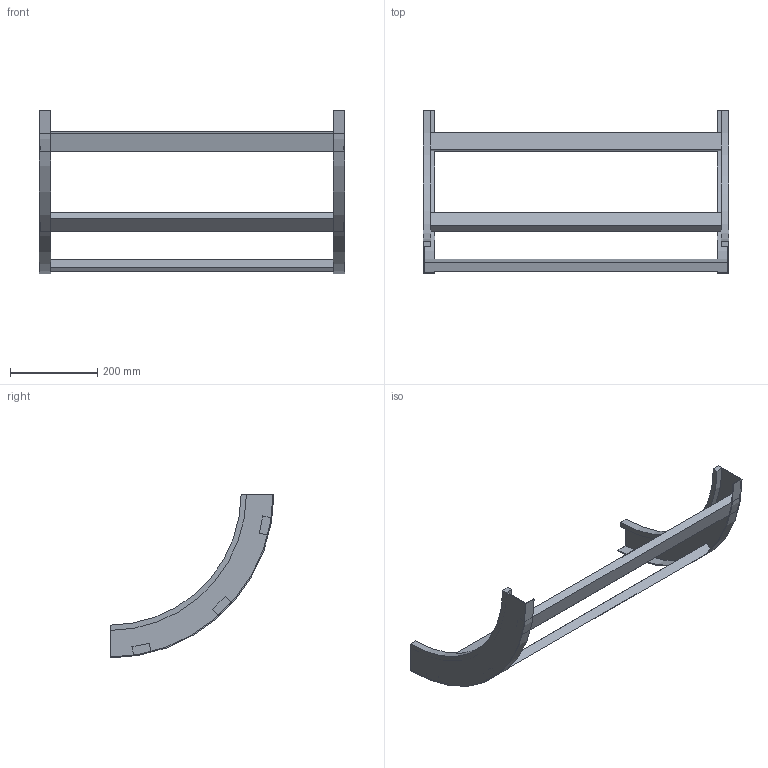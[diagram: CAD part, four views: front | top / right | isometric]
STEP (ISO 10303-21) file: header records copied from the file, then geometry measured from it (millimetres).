
FILE_DESCRIPTION (( 'STEP AP214' ), '1' );
FILE_NAME ('B2X30B3C700XX.step', '2025-03-20T10:25:31', ( '' ), ( '' ), 'SwSTEP 2.0', 'SolidWorks 2023', '' );
FILE_SCHEMA (( 'AUTOMOTIVE_DESIGN' ));
Length unit declared in the file: millimetre
Products named in the file (3): B2X30B3C700XX; TRAVERSINO_700; B2_LONGH.SALITA_90°_H75_R300
Assembly tree (5 placements, depth 2):
  B2X30B3C700XX
    B2_LONGH.SALITA_90°_H75_R300  x2
    TRAVERSINO_700  x3
Bounding box: 700 x 375 x 375 mm (x, y, z)
Volume: 2093645.8 mm3; surface area: 511870.5 mm2
Topology: 5 solids, 5 shells, 38 faces, 84 edges, 56 vertices
Faces by surface type: plane 30, cylinder 8
Entity records: 560 total; most frequent: DIRECTION 92, CARTESIAN_POINT 84, ORIENTED_EDGE 72, EDGE_CURVE 36, AXIS2_PLACEMENT_3D 32, VECTOR 28, LINE 28, VERTEX_POINT 24
